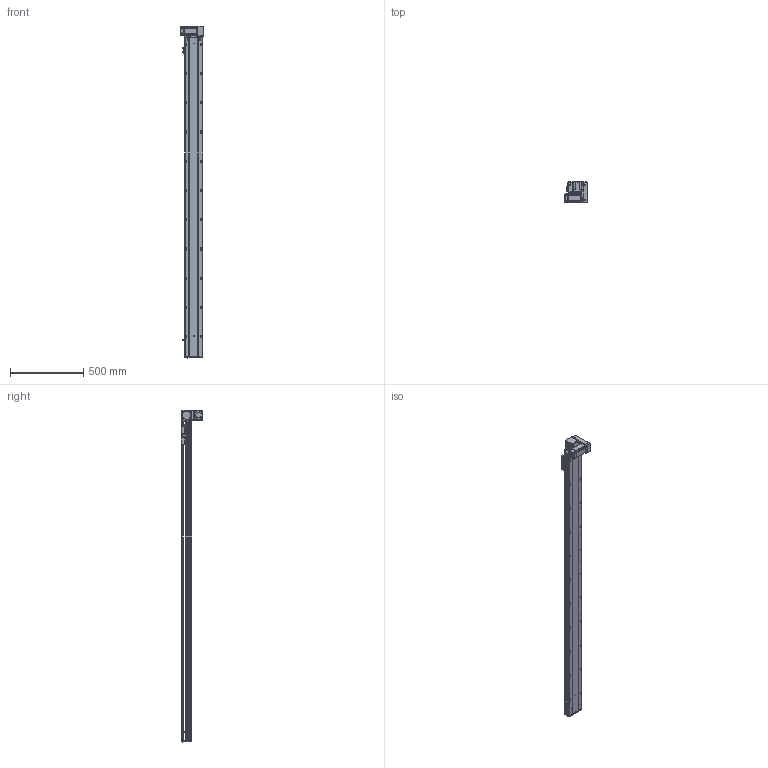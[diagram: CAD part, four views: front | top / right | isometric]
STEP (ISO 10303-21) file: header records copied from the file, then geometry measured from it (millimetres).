
FILE_DESCRIPTION (( 'STEP AP203' ), '1' );
FILE_NAME ('RY120-T-300-DR.SLDASM_1950.step', '2021-03-01T03:37:23', ( '盈信电脑' ), ( '东莞市道滘镇水果街19号' ), 'SwSTEP 2.0', 'SolidWorks 2012', '' );
FILE_SCHEMA (( 'CONFIG_CONTROL_DESIGN' ));
Length unit declared in the file: millimetre
Products named in the file (17): RY120-T肮祭湍揤踡輸1; RY120外置感应片(140共用）; RY120綴裔啣; 覜茼ん672; RY120肮祭湍臏賑輸; RY120-T-300-DR倰第菁釱_1950; RY120-T-300-DR倰第奻裔啣_1950; RY120-T翋肮祭謫裔啣; RY120-T翋肮祭盓傅釱; RY120-T肮祭湍揤踡輸2; 滅袉蝶18-10; RY120-T-300-DR.SLDASM_1950; RY120-T萇儂欶; RY120-T蹟翐M4; RY120-T萇儂假蚾啣; RY120-T主同步轮轴承压盖; 15
Assembly tree (22 placements, depth 2):
  RY120-T-300-DR.SLDASM_1950
    RY120-T-300-DR倰第菁釱_1950
    RY120-T-300-DR倰第奻裔啣_1950
    RY120肮祭湍臏賑輸
    RY120綴裔啣
    覜茼ん672  x3
    RY120外置感应片(140共用）
    RY120-T肮祭湍揤踡輸1
    RY120-T肮祭湍揤踡輸2
    RY120-T翋肮祭盓傅釱
    滅袉蝶18-10  x2
    RY120-T翋肮祭謫裔啣
    15
    RY120-T萇儂假蚾啣
    RY120-T蹟翐M4  x4
    RY120-T萇儂欶
    RY120-T主同步轮轴承压盖
Bounding box: 155.5 x 150 x 2271 mm (x, y, z)
Volume: 5696691.4 mm3; surface area: 2174962.8 mm2
Topology: 23 solids, 23 shells, 3108 faces, 8508 edges, 5422 vertices
Faces by surface type: plane 1452, cylinder 1246, cone 321, bspline 89
Entity records: 100057 total; most frequent: CARTESIAN_POINT 26196, ORIENTED_EDGE 15312, DIRECTION 14430, EDGE_CURVE 7656, VERTEX_POINT 5009, AXIS2_PLACEMENT_3D 4903, LINE 4624, VECTOR 4624
